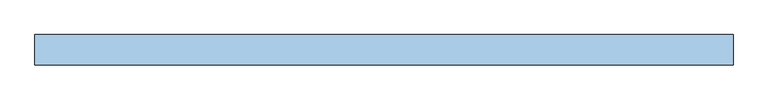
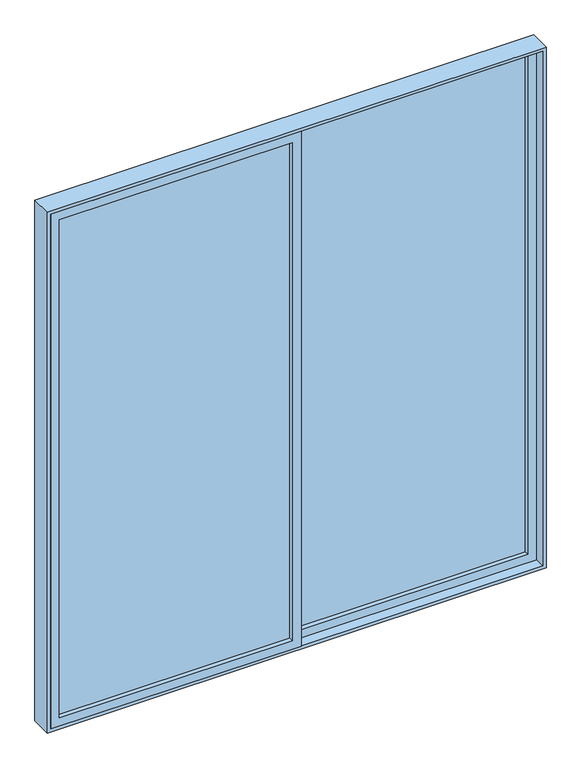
"""IFC4 building model written with IfcOpenShell, lengths in millimetres: window geometry, VENT_ALUM_CORR_2HOJAS_CORRE 1 : VD-2/ CORRE RECAM 2.31 X 2.55."""

from ifc_helpers import new_model, si_unit, frame, origin, place, context, project, spatial, polyline, outline, extrude, source, transform, mapped, element, save


def window_f859bc00(model_context):
    return source(origin(), model_context, "Body", "SweptSolid", [
        extrude(outline(polyline([(-20.0, -28.0), (-1100.0, -28.0), (-1100.0, -22.0), (-20.0, -22.0), (-20.0, -28.0)])), frame((0.0, 0.0, 855.0), z_axis=(0.0, 0.0, 1.0), x_axis=(1.0, 0.0, 0.0)), (0.0, 0.0, 1.0), 2440.0),
        extrude(outline(polyline([(815.0, -1140.0), (815.0, 20.0), (3335.0, 20.0), (3335.0, -1140.0), (815.0, -1140.0)]), holes=[polyline([(3295.0, -1100.0), (3295.0, -20.0), (855.0, -20.0), (855.0, -1100.0), (3295.0, -1100.0)])]), frame((0.0, -50.0, 0.0), z_axis=(0.0, 1.0, 0.0), x_axis=(0.0, 0.0, 1.0)), (0.0, 0.0, 1.0), 50.0),
        extrude(outline(polyline([(20.0, 28.0), (1100.0, 28.0), (1100.0, 22.0), (20.0, 22.0), (20.0, 28.0)])), frame((0.0, 0.0, 855.0), z_axis=(0.0, 0.0, 1.0), x_axis=(1.0, 0.0, 0.0)), (0.0, 0.0, 1.0), 2440.0),
        extrude(outline(polyline([(815.0, -20.0), (815.0, 1140.0), (3335.0, 1140.0), (3335.0, -20.0), (815.0, -20.0)]), holes=[polyline([(3295.0, 20.0), (3295.0, 1100.0), (855.0, 1100.0), (855.0, 20.0), (3295.0, 20.0)])]), frame((0.0, 0.0, 0.0), z_axis=(0.0, 1.0, 0.0), x_axis=(0.0, 0.0, 1.0)), (0.0, 0.0, 1.0), 50.0),
        extrude(outline(polyline([(800.0, -1155.0), (800.0, 1155.0), (3350.0, 1155.0), (3350.0, -1155.0), (800.0, -1155.0)]), holes=[polyline([(3335.0, -1140.0), (3335.0, 1140.0), (815.0, 1140.0), (815.0, -1140.0), (3335.0, -1140.0)])]), frame((0.0, -50.0, 0.0), z_axis=(0.0, 1.0, 0.0), x_axis=(0.0, 0.0, 1.0)), (0.0, 0.0, 1.0), 100.0),
    ])


if __name__ == "__main__":
    model = new_model("IFC4")
    model_context = context("Model", 3, world=origin())
    ifc_project = project(units=[si_unit("LENGTHUNIT", "METRE", prefix="MILLI")], contexts=[model_context])
    site = spatial("IfcSite", under=ifc_project)
    building = spatial("IfcBuilding", under=site)
    placement = place(None, origin())
    window_shape = window_f859bc00(model_context)
    element("IfcWindow", 1, ObjectType="VENT_ALUM_CORR_2HOJAS_CORRE 1 : VD-2/ CORRE RECAM 2.31 X 2.55", at=placement, inside=building, context=model_context, shape_type="MappedRepresentation", body=[
        mapped(window_shape, transform((0.0, 0.0, 0.0), x_axis=(1.0, 0.0, 0.0), y_axis=(0.0, 1.0, 0.0), z_axis=(0.0, 0.0, 1.0))),
    ])
    save(model, "model.ifc")
